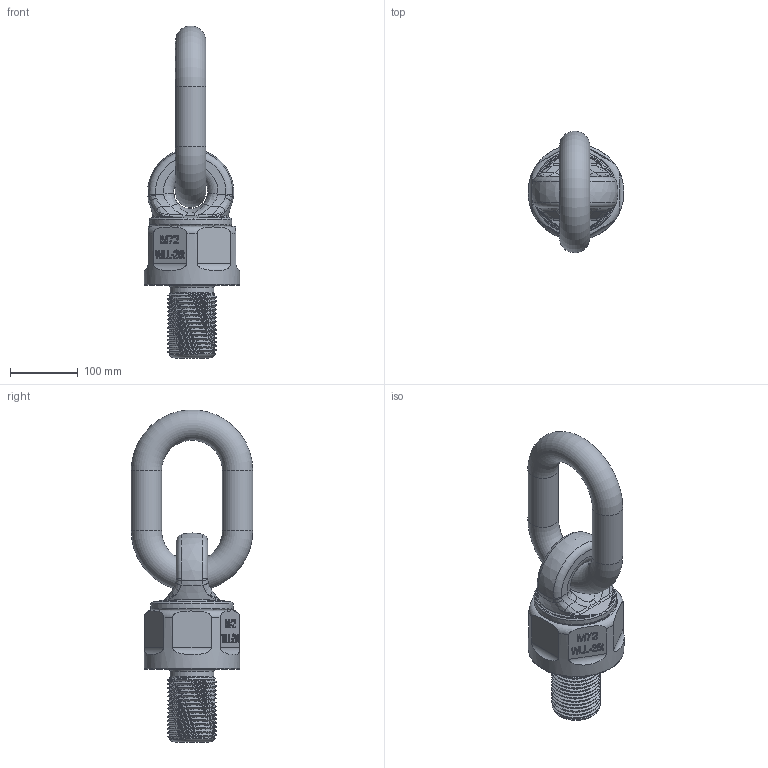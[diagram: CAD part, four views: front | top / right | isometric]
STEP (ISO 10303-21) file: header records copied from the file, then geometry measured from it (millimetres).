
FILE_DESCRIPTION(/* description */ (''),/* implementation_level */ '2;1');
FILE_NAME(/* name */ 'YTJ-M72.stp',/* time_stamp */ '2025-04-02T11:25:14+08:00',/* author */ (''),/* organization */ (''),/* preprocessor_version */ 'ST-DEVELOPER v16',/* originating_system */ 'SIEMENS PLM Software NX 10.0',/* authorisation */ '');
FILE_SCHEMA (('AP203_CONFIGURATION_CONTROLLED_3D_DESIGN_OF_MECHANICAL_PARTS_AND_ASSEMBLIES_MIM_LF { 1 0 10303 403 2 1 2}'));
Length unit declared in the file: millimetre
Products named in the file (1): Admi177C9AD32iam
Bounding box: 142 x 180 x 491.86 mm (x, y, z)
Volume: 3212439.1 mm3; surface area: 269046.6 mm2
Topology: 3 solids, 3 shells, 283 faces, 726 edges, 458 vertices
Faces by surface type: plane 124, bspline 62, extrusion 42, cylinder 23, torus 22, cone 5, sphere 5
Full cylindrical faces by diameter (mm): 45 x2, 64.9 x1, 82 x2, 122 x1, 142 x1
Entity records: 13773 total; most frequent: CARTESIAN_POINT 7662, ORIENTED_EDGE 1374, DIRECTION 987, EDGE_CURVE 687, VERTEX_POINT 445, AXIS2_PLACEMENT_3D 342, EDGE_LOOP 320, B_SPLINE_CURVE_WITH_KNOTS 305
